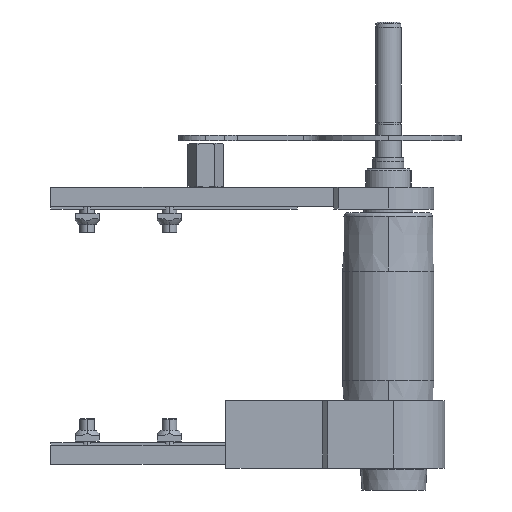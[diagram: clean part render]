
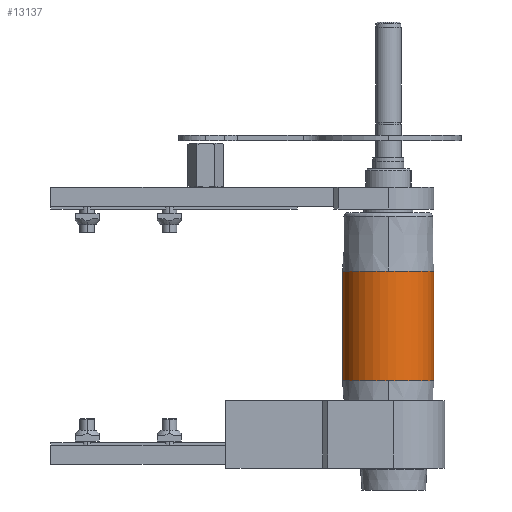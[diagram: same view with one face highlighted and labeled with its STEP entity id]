
A CAD part, front view. The second image highlights one B-rep face of the part: STEP entity #13137.
In plain terms, the highlighted cylindrical face has radius 25 mm (diameter 50 mm), a partial arc.
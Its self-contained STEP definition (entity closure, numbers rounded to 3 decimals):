
#46 = AXIS2_PLACEMENT_3D ( 'NONE', #14040, #435, #556 ) ;
#206 = DIRECTION ( 'NONE',  ( 0., -1., 0. ) ) ;
#407 = FACE_OUTER_BOUND ( 'NONE', #12754, .T. ) ;
#435 = DIRECTION ( 'NONE',  ( -1., 0., 0. ) ) ;
#448 = VECTOR ( 'NONE', #13302, 1000. ) ;
#556 = DIRECTION ( 'NONE',  ( 0., 0., 1. ) ) ;
#617 = VERTEX_POINT ( 'NONE', #6825 ) ;
#1322 = CARTESIAN_POINT ( 'NONE',  ( 30., 0., 25. ) ) ;
#2064 = DIRECTION ( 'NONE',  ( -1., 0., 0. ) ) ;
#2443 = AXIS2_PLACEMENT_3D ( 'NONE', #5562, #15275, #206 ) ;
#3365 = CARTESIAN_POINT ( 'NONE',  ( -30., 0., 0. ) ) ;
#3741 = LINE ( 'NONE', #6149, #14118 ) ;
#4004 = DIRECTION ( 'NONE',  ( -1., 0., 0. ) ) ;
#4046 = LINE ( 'NONE', #17421, #448 ) ;
#4421 = CYLINDRICAL_SURFACE ( 'NONE', #46, 25. ) ;
#4572 = AXIS2_PLACEMENT_3D ( 'NONE', #9575, #11170, #8457 ) ;
#4644 = CARTESIAN_POINT ( 'NONE',  ( 30., 25., 0. ) ) ;
#4771 = VERTEX_POINT ( 'NONE', #16623 ) ;
#4790 = ORIENTED_EDGE ( 'NONE', *, *, #10654, .T. ) ;
#5174 = ORIENTED_EDGE ( 'NONE', *, *, #7097, .F. ) ;
#5385 = ORIENTED_EDGE ( 'NONE', *, *, #15728, .T. ) ;
#5562 = CARTESIAN_POINT ( 'NONE',  ( -30., 0., 0. ) ) ;
#5739 = CARTESIAN_POINT ( 'NONE',  ( -30., 0., 25. ) ) ;
#5826 = VERTEX_POINT ( 'NONE', #1322 ) ;
#6149 = CARTESIAN_POINT ( 'NONE',  ( 60., 0., 25. ) ) ;
#6275 = ORIENTED_EDGE ( 'NONE', *, *, #12611, .F. ) ;
#6825 = CARTESIAN_POINT ( 'NONE',  ( 30., 0., -25. ) ) ;
#6962 = CIRCLE ( 'NONE', #4572, 25. ) ;
#7020 = VERTEX_POINT ( 'NONE', #10232 ) ;
#7097 = EDGE_CURVE ( 'NONE', #14789, #4771, #10378, .T. ) ;
#7919 = CIRCLE ( 'NONE', #15788, 25. ) ;
#8457 = DIRECTION ( 'NONE',  ( 0., -1., 0. ) ) ;
#9211 = AXIS2_PLACEMENT_3D ( 'NONE', #3365, #2064, #12785 ) ;
#9572 = EDGE_CURVE ( 'NONE', #5826, #14789, #3741, .T. ) ;
#9575 = CARTESIAN_POINT ( 'NONE',  ( 30., 0., 0. ) ) ;
#10232 = CARTESIAN_POINT ( 'NONE',  ( -30., 0., -25. ) ) ;
#10291 = VERTEX_POINT ( 'NONE', #4644 ) ;
#10378 = CIRCLE ( 'NONE', #2443, 25. ) ;
#10654 = EDGE_CURVE ( 'NONE', #10291, #617, #7919, .T. ) ;
#11170 = DIRECTION ( 'NONE',  ( -1., 0., 0. ) ) ;
#11347 = CIRCLE ( 'NONE', #9211, 25. ) ;
#11960 = DIRECTION ( 'NONE',  ( 0., -1., 0. ) ) ;
#12611 = EDGE_CURVE ( 'NONE', #4771, #7020, #11347, .T. ) ;
#12754 = EDGE_LOOP ( 'NONE', ( #17213, #4790, #5385, #6275, #5174, #17506 ) ) ;
#12785 = DIRECTION ( 'NONE',  ( 0., -1., 0. ) ) ;
#12943 = EDGE_CURVE ( 'NONE', #5826, #10291, #6962, .T. ) ;
#13137 = ADVANCED_FACE ( 'NONE', ( #407 ), #4421, .T. ) ;
#13302 = DIRECTION ( 'NONE',  ( -1., 0., 0. ) ) ;
#14040 = CARTESIAN_POINT ( 'NONE',  ( 60., 0., 0. ) ) ;
#14118 = VECTOR ( 'NONE', #15697, 1000. ) ;
#14789 = VERTEX_POINT ( 'NONE', #5739 ) ;
#14836 = CARTESIAN_POINT ( 'NONE',  ( 30., 0., 0. ) ) ;
#15275 = DIRECTION ( 'NONE',  ( -1., 0., 0. ) ) ;
#15697 = DIRECTION ( 'NONE',  ( -1., 0., 0. ) ) ;
#15728 = EDGE_CURVE ( 'NONE', #617, #7020, #4046, .T. ) ;
#15788 = AXIS2_PLACEMENT_3D ( 'NONE', #14836, #4004, #11960 ) ;
#16623 = CARTESIAN_POINT ( 'NONE',  ( -30., 25., 0. ) ) ;
#17213 = ORIENTED_EDGE ( 'NONE', *, *, #12943, .T. ) ;
#17421 = CARTESIAN_POINT ( 'NONE',  ( 60., 0., -25. ) ) ;
#17506 = ORIENTED_EDGE ( 'NONE', *, *, #9572, .F. ) ;
